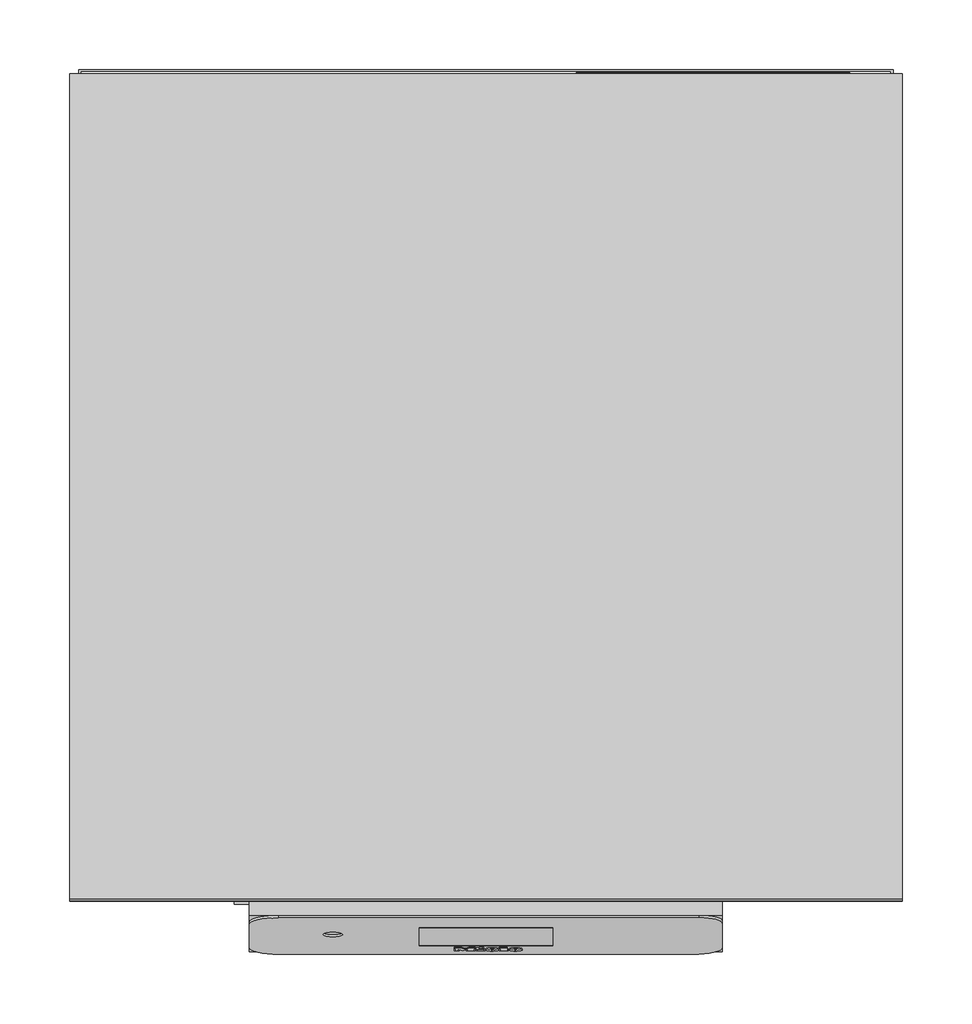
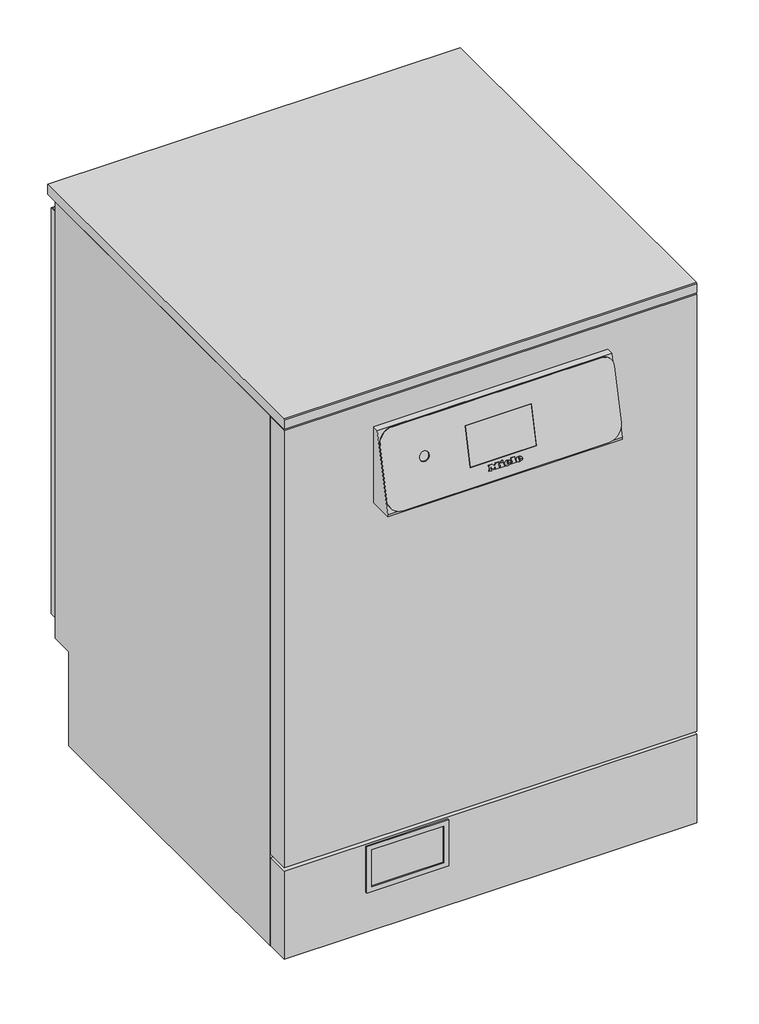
# Not in any storey: 1 proxy.
"""IFC4 building model written with IfcOpenShell, lengths in millimetres."""

from ifc_helpers import new_model, si_unit, origin, place, context, project, spatial, transform, mapped, element, save
from components import specialty_equipment_717b9cd6

model = new_model("IFC4")

# Units and contexts
model_context = context("Model", 3, world=origin())
ifc_project = project(units=[si_unit("LENGTHUNIT", "METRE", prefix="MILLI")], contexts=[model_context])

# Site, building
site = spatial("IfcSite", under=ifc_project)
building = spatial("IfcBuilding", under=site)

# Proxy
placement = place(None, origin())
specialty_equipment_shape = specialty_equipment_717b9cd6(model_context)
element("IfcBuildingElementProxy", 1, Name="12065860_NWE_PFD407_LW : 61040701_NWE_12065860_PFD407_LW", ObjectType="12065860_NWE_PFD407_LW : 61040701_NWE_12065860_PFD407_LW", at=placement, inside=building, context=model_context, shape_type="MappedRepresentation", body=[
    mapped(specialty_equipment_shape, transform((0.0, 0.0, 0.0), x_axis=(1.0, 0.0, 0.0), y_axis=(0.0, 1.0, 0.0), z_axis=(0.0, 0.0, 1.0))),
])

save(model, "model.ifc")
